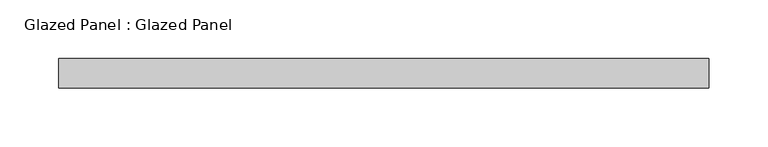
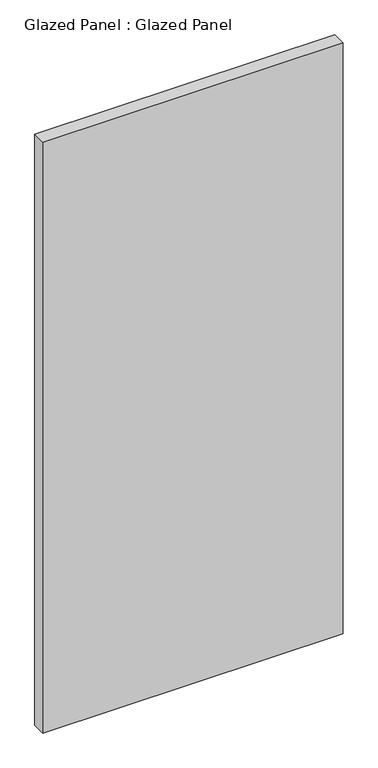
"""IFC4 building model written with IfcOpenShell, lengths in millimetres: plate geometry, Glazed Panel : Glazed Panel."""

from ifc_helpers import new_model, si_unit, origin, origin_with_axes, place, context, project, spatial, polyline, outline, extrude, source, transform, mapped, element, save


def glazed_panel_glazed_panel_82ed4464(model_context):
    return source(origin(), model_context, "Body", "SweptSolid", [
        extrude(outline(polyline([(277.8125, 38.1), (-277.8125, 38.1), (-277.8125, 63.5), (277.8125, 63.5), (277.8125, 38.1)])), origin_with_axes(), (0.0, 0.0, 1.0), 1155.7),
    ])


if __name__ == "__main__":
    model = new_model("IFC4")
    model_context = context("Model", 3, world=origin())
    ifc_project = project(units=[si_unit("LENGTHUNIT", "METRE", prefix="MILLI")], contexts=[model_context])
    site = spatial("IfcSite", under=ifc_project)
    building = spatial("IfcBuilding", under=site)
    placement = place(None, origin())
    glazed_panel_glazed_panel_shape = glazed_panel_glazed_panel_82ed4464(model_context)
    element("IfcPlate", 1, ObjectType="Glazed Panel : Glazed Panel", at=placement, inside=building, context=model_context, shape_type="MappedRepresentation", body=[
        mapped(glazed_panel_glazed_panel_shape, transform((0.0, 0.0, 0.0), x_axis=(1.0, 0.0, 0.0), y_axis=(0.0, 1.0, 0.0), z_axis=(0.0, 0.0, 1.0))),
    ])
    save(model, "model.ifc")
